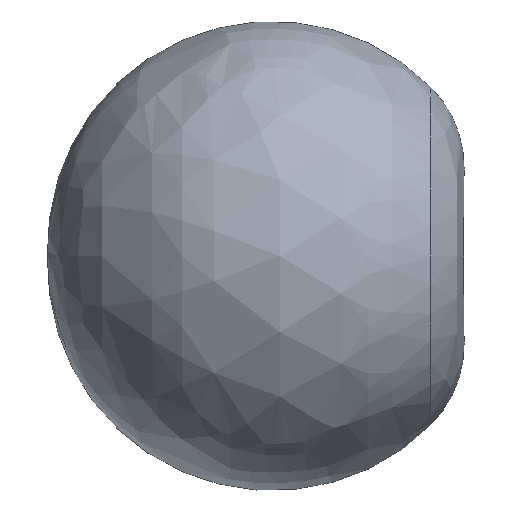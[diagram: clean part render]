
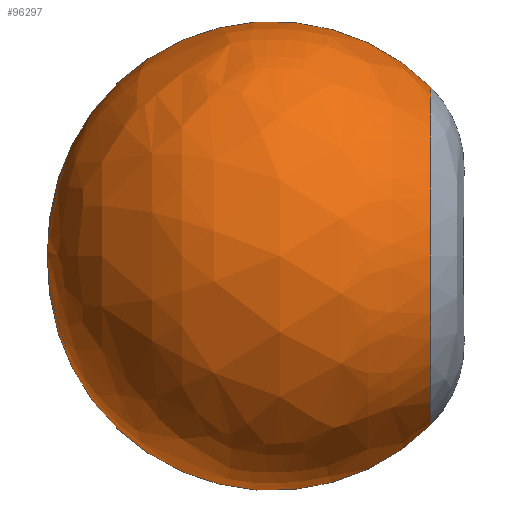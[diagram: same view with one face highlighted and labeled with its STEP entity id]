
A CAD part, left-side view. The second image highlights one B-rep face of the part: STEP entity #96297.
In plain terms, the highlighted free-form (B-spline) face has degree [3, 3] with [4, 4] control points.
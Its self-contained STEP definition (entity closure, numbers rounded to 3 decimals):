
#5676 = CARTESIAN_POINT ( 'NONE',  ( 0., 1571.236, 0. ) ) ;
#6602 = CARTESIAN_POINT ( 'NONE',  ( 0., 543.632, 1658.492 ) ) ;
#8348 = CARTESIAN_POINT ( 'NONE',  ( 0., -292.43, 822.43 ) ) ;
#9272 = CARTESIAN_POINT ( 'NONE',  ( 0., 1571.236, 0. ) ) ;
#32028 = CIRCLE ( 'NONE', #188737, 822.43 ) ;
#45782 = ORIENTED_EDGE ( 'NONE', *, *, #218045, .F. ) ;
#50918 = CARTESIAN_POINT ( 'NONE',  ( -2362.262, 1625.355, -1181.131 ) ) ;
#55457 = CARTESIAN_POINT ( 'NONE',  ( 0., -292.43, 822.43 ) ) ;
#70846 = CARTESIAN_POINT ( 'NONE',  ( -2362.262, 1625.355, 1181.131 ) ) ;
#71754 = CARTESIAN_POINT ( 'NONE',  ( -1644.86, -292.43, 822.43 ) ) ;
#80666 = VERTEX_POINT ( 'NONE', #141196 ) ;
#94151 = VERTEX_POINT ( 'NONE', #96242 ) ;
#96242 = CARTESIAN_POINT ( 'NONE',  ( 0., -292.43, -822.43 ) ) ;
#96297 = ADVANCED_FACE ( 'NONE', ( #206287 ), #253236, .T. ) ;
#96534 = DIRECTION ( 'NONE',  ( 1., 0., 0. ) ) ;
#99956 = AXIS2_PLACEMENT_3D ( 'NONE', #136352, #96534, #259975 ) ;
#124629 = DIRECTION ( 'NONE',  ( 0., 0., -1. ) ) ;
#133234 = CARTESIAN_POINT ( 'NONE',  ( 0., 1625.355, 1181.131 ) ) ;
#136352 = CARTESIAN_POINT ( 'NONE',  ( 0., 480., -50. ) ) ;
#141196 = CARTESIAN_POINT ( 'NONE',  ( 0., 1571.236, 0. ) ) ;
#143169 = DIRECTION ( 'NONE',  ( -1., 0., 0. ) ) ;
#151275 = CARTESIAN_POINT ( 'NONE',  ( -3316.984, 543.632, 1658.492 ) ) ;
#153072 = CARTESIAN_POINT ( 'NONE',  ( 0., -292.43, -822.43 ) ) ;
#163032 = CARTESIAN_POINT ( 'NONE',  ( 0., 480., 50. ) ) ;
#172881 = CARTESIAN_POINT ( 'NONE',  ( -3316.984, 543.632, -1658.492 ) ) ;
#179060 = EDGE_LOOP ( 'NONE', ( #267228, #222282, #45782 ) ) ;
#183688 = DIRECTION ( 'NONE',  ( 0., 0., 1. ) ) ;
#188737 = AXIS2_PLACEMENT_3D ( 'NONE', #227600, #248350, #124629 ) ;
#189526 = VERTEX_POINT ( 'NONE', #55457 ) ;
#192767 = CARTESIAN_POINT ( 'NONE',  ( 0., 1571.236, 0. ) ) ;
#192951 = EDGE_CURVE ( 'NONE', #94151, #189526, #32028, .T. ) ;
#201159 = CIRCLE ( 'NONE', #245115, 1092.381 ) ;
#206287 = FACE_OUTER_BOUND ( 'NONE', #179060, .T. ) ;
#212685 = CARTESIAN_POINT ( 'NONE',  ( 0., 543.632, -1658.492 ) ) ;
#215391 = CARTESIAN_POINT ( 'NONE',  ( 0., 1571.236, 0. ) ) ;
#217436 = EDGE_CURVE ( 'NONE', #189526, #80666, #201159, .T. ) ;
#218045 = EDGE_CURVE ( 'NONE', #94151, #80666, #245764, .T. ) ;
#222282 = ORIENTED_EDGE ( 'NONE', *, *, #217436, .T. ) ;
#227600 = CARTESIAN_POINT ( 'NONE',  ( 0., -292.43, 0. ) ) ;
#233476 = CARTESIAN_POINT ( 'NONE',  ( -1644.86, -292.43, -822.43 ) ) ;
#245115 = AXIS2_PLACEMENT_3D ( 'NONE', #163032, #143169, #183688 ) ;
#245764 = CIRCLE ( 'NONE', #99956, 1092.381 ) ;
#248350 = DIRECTION ( 'NONE',  ( 0., 1., 0. ) ) ;
#253236 =( BOUNDED_SURFACE ( )  B_SPLINE_SURFACE ( 3, 3, ( 
 ( #8348, #71754, #233476, #153072 ),
 ( #6602, #151275, #172881, #212685 ),
 ( #133234, #70846, #50918, #253349 ),
 ( #9272, #215391, #5676, #192767 ) ),
 .UNSPECIFIED., .F., .F., .F. ) 
 B_SPLINE_SURFACE_WITH_KNOTS ( ( 4, 4 ),
 ( 4, 4 ),
 ( 0., 1. ),
 ( 0., 1. ),
 .UNSPECIFIED. ) 
 GEOMETRIC_REPRESENTATION_ITEM ( )  RATIONAL_B_SPLINE_SURFACE ( (
 ( 1., 0.333, 0.333, 1.),
 ( 0.574, 0.191, 0.191, 0.574),
 ( 0.574, 0.191, 0.191, 0.574),
 ( 1., 0.333, 0.333, 1.) ) ) 
 REPRESENTATION_ITEM ( '' )  SURFACE ( )  );
#253349 = CARTESIAN_POINT ( 'NONE',  ( 0., 1625.355, -1181.131 ) ) ;
#259975 = DIRECTION ( 'NONE',  ( 0., 0., -1. ) ) ;
#267228 = ORIENTED_EDGE ( 'NONE', *, *, #192951, .T. ) ;
